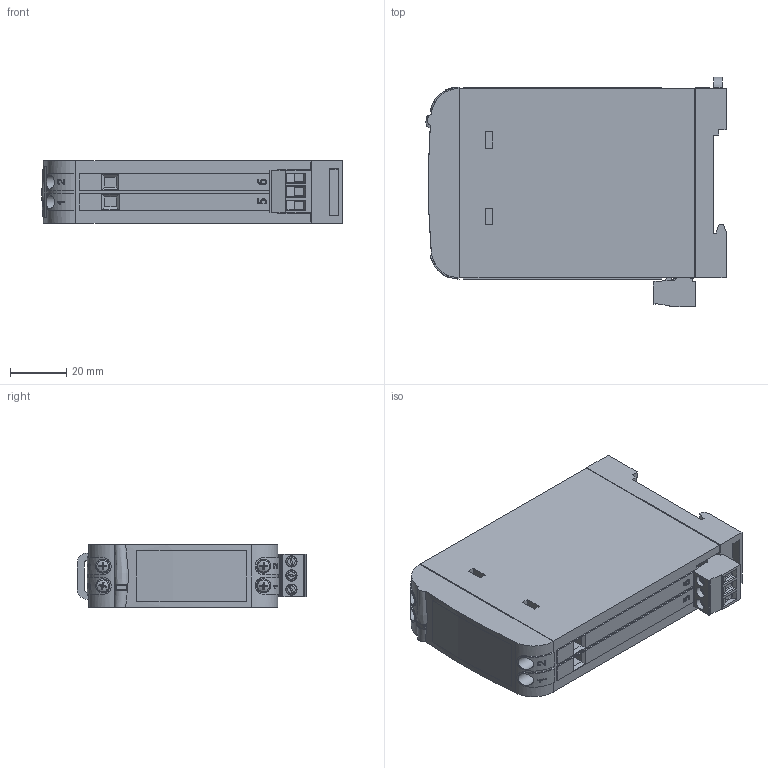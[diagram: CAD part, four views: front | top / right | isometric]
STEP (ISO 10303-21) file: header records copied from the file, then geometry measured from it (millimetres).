
FILE_DESCRIPTION(/* description */ (''),/* implementation_level */ '2;1');
FILE_NAME(/* name */ 'T:\EngMecanica\DESENHOS INVENTOR\Catalogo 2019\Arquivos STEP\TRUE RMS.stp',/* time_stamp */ '2025-06-25T12:11:41-03:00',/* author */ ('jose.luis'),/* organization */ (''),/* preprocessor_version */ 'ST-DEVELOPER v18.1',/* originating_system */ 'Autodesk Inventor 2021',/* authorisation */ '');
FILE_SCHEMA (('AUTOMOTIVE_DESIGN { 1 0 10303 214 3 1 1 }'));
Length unit declared in the file: millimetre
Products named in the file (5): TRUE RMS; Corpo TD True RMS; EN ISO 7045 - M2,5 x 3 - 4.8 - H; Borne 3 vias - Transdutor; KS B 1021 - M 2 x 2,5
Assembly tree (9 placements, depth 2):
  TRUE RMS
    Corpo TD True RMS
    EN ISO 7045 - M2,5 x 3 - 4.8 - H  x4
    Borne 3 vias - Transdutor
    KS B 1021 - M 2 x 2,5  x3
Bounding box: 106.33 x 81.27 x 22 mm (x, y, z)
Volume: 144520.2 mm3; surface area: 33320.4 mm2
Topology: 14 solids, 14 shells, 772 faces, 1981 edges, 1281 vertices
Faces by surface type: plane 435, cylinder 153, bspline 100, cone 57, torus 23, sphere 4
Full cylindrical faces by diameter (mm): 1.754 x3, 2 x3, 2.256 x4, 2.5 x4, 3.3 x1, 4 x3, 5 x8, 12.5 x2
Entity records: 24635 total; most frequent: CARTESIAN_POINT 8388, ORIENTED_EDGE 3386, DIRECTION 2908, EDGE_CURVE 1693, VERTEX_POINT 1098, LINE 1096, VECTOR 1096, AXIS2_PLACEMENT_3D 906
